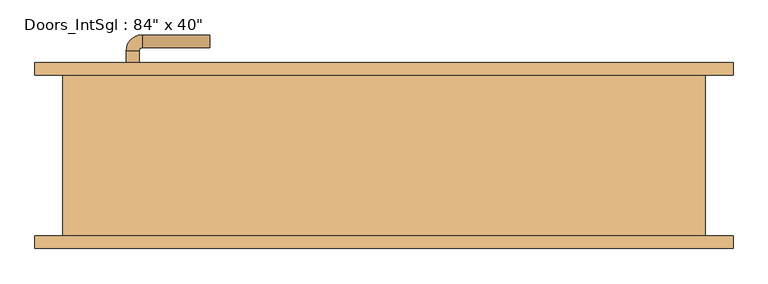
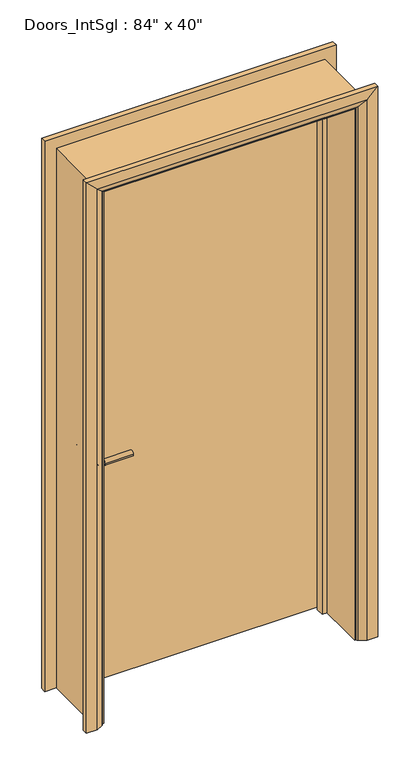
"""IFC4 building model written with IfcOpenShell, lengths in millimetres: door geometry."""

from ifc_helpers import new_model, si_unit, point, frame, frame_2d, origin, place, context, project, spatial, polyline, circle_curve, ellipse_curve, trimmed, segment, composite_curve, outline, extrude, faceted_brep, source, transform, mapped, element, save
from ifc_brep_helpers import plane_surface, cylinder_surface, revolved_surface, advanced_brep


def door_0ca23158(model_context):
    return source(origin(), model_context, "Body", "SolidModel", [
        advanced_brep(
        [(-401.0, 79.0, 900.0), (-381.0, 79.0, 900.0), (-381.0, 49.0, 900.0), (-401.0, 49.0, 900.0), (-376.0, 44.0, 900.0), (-376.0, 24.0, 900.0), (-271.0, 24.0, 900.0), (-271.0, 44.0, 900.0)],
        [
            (0, 1, circle_curve(frame((-391.0, 79.0, 900.0), z_axis=(0.0, 1.0, 0.0), x_axis=(1.0, 0.0, 0.0)), 10.0)),
            (1, 0, circle_curve(frame((-391.0, 79.0, 900.0), z_axis=(0.0, 1.0, 0.0), x_axis=(1.0, 0.0, 0.0)), 10.0)),
            (1, 2),
            (2, 3, circle_curve(frame((-391.0, 49.0, 900.0), z_axis=(0.0, 1.0, 0.0), x_axis=(1.0, 0.0, 0.0)), 10.0)),
            (3, 0),
            (3, 2, circle_curve(frame((-391.0, 49.0, 900.0), z_axis=(0.0, 1.0, 0.0), x_axis=(1.0, 0.0, 0.0)), 10.0)),
            (4, 5, circle_curve(frame((-376.0, 34.0, 900.0), z_axis=(-1.0, 0.0, 0.0), x_axis=(0.0, 1.0, 0.0)), 10.0)),
            (5, 3, circle_curve(frame((-376.0, 49.0, 900.0), z_axis=(0.0, 0.0, -1.0), x_axis=(-1.0, 0.0, 0.0)), 25.0)),
            (2, 4, circle_curve(frame((-376.0, 49.0, 900.0), z_axis=(0.0, 0.0, 1.0), x_axis=(-1.0, 0.0, 0.0)), 5.0)),
            (5, 4, circle_curve(frame((-376.0, 34.0, 900.0), z_axis=(-1.0, 0.0, 0.0), x_axis=(0.0, 1.0, 0.0)), 10.0)),
            (6, 7, circle_curve(frame((-271.0, 34.0, 900.0), z_axis=(1.0, 0.0, 0.0), x_axis=(0.0, 1.0, 0.0)), 10.0)),
            (7, 6, circle_curve(frame((-271.0, 34.0, 900.0), z_axis=(1.0, 0.0, 0.0), x_axis=(0.0, 1.0, 0.0)), 10.0)),
            (4, 7),
            (6, 5),
        ],
        [
            plane_surface(frame((-391.0, 79.0, 900.0), z_axis=(0.0, 1.0, 0.0), x_axis=(0.0, 0.0, 1.0))),
            cylinder_surface(frame((-391.0, 79.0, 900.0), z_axis=(0.0, 1.0, 0.0), x_axis=(1.0, 0.0, 0.0)), 10.0),
            revolved_surface(trimmed(ellipse_curve(frame((-391.0, 49.0, 900.0), z_axis=(0.0, -1.0, 0.0), x_axis=(1.0, 0.0, 0.0)), 10.0, 10.0), [point((-401.0, 49.0, 900.0))], [point((-381.0, 49.0, 900.0))], True, "CARTESIAN"), (-376.0, 49.0, 900.0), (0.0, 0.0, -1.0)),
            revolved_surface(trimmed(ellipse_curve(frame((-391.0, 49.0, 900.0), z_axis=(0.0, -1.0, 0.0), x_axis=(1.0, 0.0, 0.0)), 10.0, 10.0), [point((-381.0, 49.0, 900.0))], [point((-401.0, 49.0, 900.0))], True, "CARTESIAN"), (-376.0, 49.0, 900.0), (0.0, 0.0, -1.0)),
            plane_surface(frame((-271.0, 34.0, 900.0), z_axis=(1.0, 0.0, 0.0), x_axis=(0.0, 0.0, 1.0))),
            cylinder_surface(frame((-376.0, 34.0, 900.0), z_axis=(-1.0, 0.0, 0.0), x_axis=(0.0, 1.0, 0.0)), 10.0),
        ],
        [
            (0, [[1, 2]]),
            (1, [[3, 4, 5, -2]]),
            (1, [[-5, 6, -3, -1]]),
            (2, [[7, 8, -4, 9]]),
            (3, [[10, -9, -6, -8]]),
            (4, [[11, 12]]),
            (5, [[13, -11, 14, -7]]),
            (5, [[-14, -12, -13, -10]]),
        ],
    ),
        extrude(outline(composite_curve([segment(trimmed(circle_curve(frame_2d((900.0, -393.5)), 30.0), [point((900.0, -423.5))], [point((900.0, -363.5))], False, "CARTESIAN"), True, "CONTINUOUS"), segment(trimmed(circle_curve(frame_2d((900.0, -393.5)), 30.0), [point((900.0, -363.5))], [point((900.0, -423.5))], False, "CARTESIAN"), True, "CONTINUOUS")], self_intersect=False)), frame((0.0, 79.0, 0.0), z_axis=(0.0, 1.0, 0.0), x_axis=(0.0, 0.0, 1.0)), (0.0, 0.0, 1.0), 8.0),
        advanced_brep(
        [(-401.0, 133.0, 900.0), (-381.0, 133.0, 900.0), (-401.0, 163.0, 900.0), (-381.0, 163.0, 900.0), (-376.0, 168.0, 900.0), (-376.0, 188.0, 900.0), (-271.0, 188.0, 900.0), (-271.0, 168.0, 900.0)],
        [
            (0, 1, circle_curve(frame((-391.0, 133.0, 900.0), z_axis=(0.0, -1.0, 0.0), x_axis=(1.0, 0.0, 0.0)), 10.0)),
            (1, 0, circle_curve(frame((-391.0, 133.0, 900.0), z_axis=(0.0, -1.0, 0.0), x_axis=(1.0, 0.0, 0.0)), 10.0)),
            (0, 2),
            (2, 3, circle_curve(frame((-391.0, 163.0, 900.0), z_axis=(0.0, -1.0, 0.0), x_axis=(1.0, 0.0, 0.0)), 10.0)),
            (3, 1),
            (3, 2, circle_curve(frame((-391.0, 163.0, 900.0), z_axis=(0.0, -1.0, 0.0), x_axis=(1.0, 0.0, 0.0)), 10.0)),
            (4, 3, circle_curve(frame((-376.0, 163.0, 900.0), z_axis=(0.0, 0.0, 1.0), x_axis=(-1.0, 0.0, 0.0)), 5.0)),
            (2, 5, circle_curve(frame((-376.0, 163.0, 900.0), z_axis=(0.0, 0.0, -1.0), x_axis=(-1.0, 0.0, 0.0)), 25.0)),
            (5, 4, circle_curve(frame((-376.0, 178.0, 900.0), z_axis=(-1.0, 0.0, 0.0), x_axis=(0.0, -1.0, 0.0)), 10.0)),
            (4, 5, circle_curve(frame((-376.0, 178.0, 900.0), z_axis=(-1.0, 0.0, 0.0), x_axis=(0.0, -1.0, 0.0)), 10.0)),
            (6, 7, circle_curve(frame((-271.0, 178.0, 900.0), z_axis=(1.0, 0.0, 0.0), x_axis=(0.0, -1.0, 0.0)), 10.0)),
            (7, 6, circle_curve(frame((-271.0, 178.0, 900.0), z_axis=(1.0, 0.0, 0.0), x_axis=(0.0, -1.0, 0.0)), 10.0)),
            (5, 6),
            (7, 4),
        ],
        [
            plane_surface(frame((-391.0, 133.0, 900.0), z_axis=(0.0, -1.0, 0.0), x_axis=(0.0, 0.0, 1.0))),
            cylinder_surface(frame((-391.0, 133.0, 900.0), z_axis=(0.0, -1.0, 0.0), x_axis=(1.0, 0.0, 0.0)), 10.0),
            revolved_surface(trimmed(ellipse_curve(frame((-391.0, 163.0, 900.0), z_axis=(0.0, -1.0, 0.0), x_axis=(1.0, 0.0, 0.0)), 10.0, 10.0), [point((-401.0, 163.0, 900.0))], [point((-381.0, 163.0, 900.0))], True, "CARTESIAN"), (-376.0, 163.0, 900.0), (0.0, 0.0, -1.0)),
            revolved_surface(trimmed(ellipse_curve(frame((-391.0, 163.0, 900.0), z_axis=(0.0, -1.0, 0.0), x_axis=(1.0, 0.0, 0.0)), 10.0, 10.0), [point((-381.0, 163.0, 900.0))], [point((-401.0, 163.0, 900.0))], True, "CARTESIAN"), (-376.0, 163.0, 900.0), (0.0, 0.0, -1.0)),
            plane_surface(frame((-271.0, 178.0, 900.0), z_axis=(1.0, 0.0, 0.0), x_axis=(0.0, 0.0, 1.0))),
            cylinder_surface(frame((-376.0, 178.0, 900.0), z_axis=(-1.0, 0.0, 0.0), x_axis=(0.0, -1.0, 0.0)), 10.0),
        ],
        [
            (0, [[1, 2]]),
            (1, [[-1, 3, 4, 5]]),
            (1, [[-2, -5, 6, -3]]),
            (2, [[7, -4, 8, 9]]),
            (3, [[-8, -6, -7, 10]]),
            (4, [[11, 12]]),
            (5, [[-9, 13, -12, 14]]),
            (5, [[-10, -14, -11, -13]]),
        ],
    ),
        extrude(outline(composite_curve([segment(trimmed(circle_curve(frame_2d((900.0, -393.5)), 30.0), [point((900.0, -423.5))], [point((900.0, -363.5))], False, "CARTESIAN"), True, "CONTINUOUS"), segment(trimmed(circle_curve(frame_2d((900.0, -393.5)), 30.0), [point((900.0, -363.5))], [point((900.0, -423.5))], False, "CARTESIAN"), True, "CONTINUOUS")], self_intersect=False)), frame((0.0, 125.0, 0.0), z_axis=(0.0, 1.0, 0.0), x_axis=(0.0, 0.0, 1.0)), (0.0, 0.0, 1.0), 8.0),
        extrude(outline(polyline([(466.0, 87.0), (-466.0, 87.0), (-466.0, 125.0), (466.0, 125.0), (466.0, 87.0)])), frame((0.0, 0.0, 8.0), z_axis=(0.0, 0.0, 1.0), x_axis=(1.0, 0.0, 0.0)), (0.0, 0.0, 1.0), 2083.6),
        advanced_brep(
        [(543.0, 145.0, 0.0), (543.0, 125.0, 0.0), (473.0, 125.0, 0.0), (477.0, 131.0, 0.0), (503.0, 145.0, 0.0), (543.0, 145.0, 2168.6), (543.0, 125.0, 2168.6), (-543.0, 125.0, 2168.6), (-543.0, 125.0, 0.0), (-473.0, 125.0, 0.0), (-473.0, 125.0, 2098.6), (473.0, 125.0, 2098.6), (477.0, 131.0, 2102.6), (503.0, 145.0, 2128.6), (-503.0, 145.0, 2128.6), (-503.0, 145.0, 0.0), (-543.0, 145.0, 0.0), (-543.0, 145.0, 2168.6), (-477.0, 131.0, 0.0), (-477.0, 131.0, 2102.6)],
        [
            (0, 1),
            (1, 2),
            (2, 3, circle_curve(frame((481.0, 124.0, 0.0), z_axis=(0.0, 0.0, -1.0), x_axis=(1.0, 0.0, 0.0)), 8.0622577)),
            (3, 4),
            (4, 0),
            (0, 5),
            (5, 6),
            (6, 1),
            (6, 7),
            (7, 8),
            (8, 9),
            (9, 10),
            (10, 11),
            (11, 2),
            (11, 12, ellipse_curve(frame((481.0, 124.0, 2106.6), z_axis=(0.7071067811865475, 0.0, -0.7071067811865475), x_axis=(-0.7071067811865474, 0.0, -0.7071067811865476)), 11.4017543, 8.0622577)),
            (12, 3),
            (12, 13),
            (13, 4),
            (13, 14),
            (14, 15),
            (15, 16),
            (16, 17),
            (17, 5),
            (7, 17),
            (16, 8),
            (15, 18),
            (18, 9, circle_curve(frame((-481.0, 124.0, 0.0), z_axis=(0.0, 0.0, -1.0), x_axis=(-1.0, 0.0, 0.0)), 8.0622577)),
            (19, 10, ellipse_curve(frame((-481.0, 124.0, 2106.6), z_axis=(-0.7071067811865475, 0.0, -0.7071067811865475), x_axis=(-0.7071067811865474, 0.0, 0.7071067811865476)), 11.4017543, 8.0622577)),
            (18, 19),
            (14, 19),
            (19, 12),
        ],
        [
            plane_surface(frame((473.0, 125.0, 0.0), z_axis=(0.0, 0.0, -1.0), x_axis=(0.0, -1.0, 0.0))),
            plane_surface(frame((543.0, 145.0, 0.0), z_axis=(1.0, 0.0, 0.0), x_axis=(0.0, 0.0, 1.0))),
            plane_surface(frame((543.0, 125.0, 0.0), z_axis=(0.0, -1.0, 0.0), x_axis=(0.0, 0.0, 1.0))),
            cylinder_surface(frame((481.0, 124.0, 0.0), z_axis=(0.0, 0.0, -1.0), x_axis=(1.0, 0.0, 0.0)), 8.0622577),
            plane_surface(frame((477.0, 131.0, 0.0), z_axis=(-0.4740998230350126, 0.880471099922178, 0.0), x_axis=(0.0, 0.0, 1.0))),
            plane_surface(frame((503.0, 145.0, 0.0), z_axis=(0.0, 1.0, 0.0), x_axis=(0.0, 0.0, 1.0))),
            plane_surface(frame((-543.0, 145.0, 2168.6), z_axis=(-1.0, 0.0, 0.0), x_axis=(0.0, 0.0, -1.0))),
            plane_surface(frame((-473.0, 125.0, 0.0), z_axis=(0.0, 0.0, -1.0), x_axis=(0.0, -1.0, 0.0))),
            cylinder_surface(frame((-481.0, 124.0, 2098.6), z_axis=(0.0, 0.0, 1.0), x_axis=(-1.0, 0.0, 0.0)), 8.0622577),
            plane_surface(frame((-477.0, 131.0, 2102.6), z_axis=(0.47409982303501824, 0.8804710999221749, 0.0), x_axis=(0.0, 0.0, -1.0))),
            plane_surface(frame((543.0, 145.0, 2168.6), z_axis=(0.0, 0.0, 1.0), x_axis=(-1.0, 0.0, 0.0))),
            cylinder_surface(frame((473.0, 124.0, 2106.6), z_axis=(1.0, 0.0, 0.0), x_axis=(0.0, 0.0, 1.0)), 8.0622577),
            plane_surface(frame((477.0, 131.0, 2102.6), z_axis=(0.0, 0.8804710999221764, -0.4740998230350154), x_axis=(-1.0, 0.0, 0.0))),
        ],
        [
            (0, [[1, 2, 3, 4, 5]]),
            (1, [[-1, 6, 7, 8]]),
            (2, [[-2, -8, 9, 10, 11, 12, 13, 14]]),
            (3, [[-3, -14, 15, 16]]),
            (4, [[-4, -16, 17, 18]]),
            (5, [[-5, -18, 19, 20, 21, 22, 23, -6]]),
            (6, [[24, -22, 25, -10]]),
            (7, [[-21, 26, 27, -11, -25]]),
            (8, [[28, -12, -27, 29]]),
            (9, [[30, -29, -26, -20]]),
            (10, [[-7, -23, -24, -9]]),
            (11, [[-15, -13, -28, 31]]),
            (12, [[-17, -31, -30, -19]]),
        ],
    ),
        extrude(outline(polyline([(0.0, -468.0), (0.0, -449.0), (2074.6, -449.0), (2074.6, 449.0), (0.0, 449.0), (0.0, 468.0), (2093.6, 468.0), (2093.6, -468.0), (0.0, -468.0)])), frame((0.0, 53.0, 0.0), z_axis=(0.0, 1.0, 0.0), x_axis=(0.0, 0.0, 1.0)), (0.0, 0.0, 1.0), 32.0),
        advanced_brep(
        [(-543.0, -145.0, 0.0), (-543.0, -125.0, 0.0), (-473.0, -125.0, 0.0), (-477.0, -131.0, 0.0), (-503.0, -145.0, 0.0), (-543.0, -145.0, 2168.6), (-543.0, -125.0, 2168.6), (-473.0, -125.0, 2098.6), (-477.0, -131.0, 2102.6), (-503.0, -145.0, 2128.6), (543.0, -145.0, 0.0), (503.0, -145.0, 0.0), (477.0, -131.0, 0.0), (473.0, -125.0, 0.0), (543.0, -125.0, 0.0), (543.0, -145.0, 2168.6), (503.0, -145.0, 2128.6), (477.0, -131.0, 2102.6), (473.0, -125.0, 2098.6), (543.0, -125.0, 2168.6)],
        [
            (0, 1),
            (1, 2),
            (2, 3, circle_curve(frame((-481.0, -124.0, 0.0), z_axis=(0.0, 0.0, -1.0), x_axis=(-1.0, 0.0, 0.0)), 8.0622577)),
            (3, 4),
            (4, 0),
            (0, 5),
            (5, 6),
            (6, 1),
            (6, 7),
            (7, 2),
            (7, 8, ellipse_curve(frame((-481.0, -124.0, 2106.6), z_axis=(-0.7071067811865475, 0.0, -0.7071067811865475), x_axis=(0.7071067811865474, 0.0, -0.7071067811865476)), 11.4017543, 8.0622577)),
            (8, 3),
            (8, 9),
            (9, 4),
            (9, 5),
            (10, 11),
            (11, 12),
            (12, 13, circle_curve(frame((481.0, -124.0, 0.0), z_axis=(0.0, 0.0, -1.0), x_axis=(1.0, 0.0, 0.0)), 8.0622577)),
            (13, 14),
            (14, 10),
            (15, 16),
            (16, 11),
            (10, 15),
            (16, 17),
            (17, 12),
            (17, 18, ellipse_curve(frame((481.0, -124.0, 2106.6), z_axis=(0.7071067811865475, 0.0, -0.7071067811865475), x_axis=(0.7071067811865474, 0.0, 0.7071067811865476)), 11.4017543, 8.0622577)),
            (18, 13),
            (18, 19),
            (19, 14),
            (19, 15),
            (5, 15),
            (19, 6),
            (18, 7),
            (17, 8),
            (16, 9),
        ],
        [
            plane_surface(frame((-473.0, -197.8010989, 0.0), z_axis=(0.0, 0.0, -1.0), x_axis=(1.0, 0.0, 0.0))),
            plane_surface(frame((-543.0, -145.0, 0.0), z_axis=(-1.0, 0.0, 0.0), x_axis=(0.0, 0.0, 1.0))),
            plane_surface(frame((-543.0, -125.0, 0.0), z_axis=(0.0, 1.0, 0.0), x_axis=(0.0, 0.0, 1.0))),
            cylinder_surface(frame((-481.0, -124.0, 0.0), z_axis=(0.0, 0.0, -1.0), x_axis=(-1.0, 0.0, 0.0)), 8.0622577),
            plane_surface(frame((-477.0, -131.0, 0.0), z_axis=(0.4740998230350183, -0.8804710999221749, 0.0), x_axis=(0.0, 0.0, 1.0))),
            plane_surface(frame((-503.0, -145.0, 0.0), z_axis=(0.0, -1.0, 0.0), x_axis=(0.0, 0.0, 1.0))),
            plane_surface(frame((473.0, -197.8010989, 0.0), z_axis=(0.0, 0.0, -1.0), x_axis=(-1.0, 0.0, 0.0))),
            plane_surface(frame((503.0, -145.0, 2128.6), z_axis=(0.0, -1.0, 0.0), x_axis=(0.0, 0.0, -1.0))),
            plane_surface(frame((477.0, -131.0, 2102.6), z_axis=(-0.4740998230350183, -0.8804710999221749, 0.0), x_axis=(0.0, 0.0, -1.0))),
            cylinder_surface(frame((481.0, -124.0, 2098.6), z_axis=(0.0, 0.0, 1.0), x_axis=(1.0, 0.0, 0.0)), 8.0622577),
            plane_surface(frame((543.0, -125.0, 2168.6), z_axis=(0.0, 1.0, 0.0), x_axis=(0.0, 0.0, -1.0))),
            plane_surface(frame((543.0, -145.0, 2168.6), z_axis=(1.0, 0.0, 0.0), x_axis=(0.0, 0.0, -1.0))),
            plane_surface(frame((-543.0, -145.0, 2168.6), z_axis=(0.0, 0.0, 1.0), x_axis=(1.0, 0.0, 0.0))),
            plane_surface(frame((-543.0, -125.0, 2168.6), z_axis=(0.0, 1.0, 0.0), x_axis=(1.0, 0.0, 0.0))),
            cylinder_surface(frame((-473.0, -124.0, 2106.6), z_axis=(-1.0, 0.0, 0.0), x_axis=(0.0, 0.0, 1.0)), 8.0622577),
            plane_surface(frame((-477.0, -131.0, 2102.6), z_axis=(0.0, -0.8804710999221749, -0.4740998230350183), x_axis=(1.0, 0.0, 0.0))),
            plane_surface(frame((-503.0, -145.0, 2128.6), z_axis=(0.0, -1.0, 0.0), x_axis=(1.0, 0.0, 0.0))),
        ],
        [
            (0, [[1, 2, 3, 4, 5]]),
            (1, [[-1, 6, 7, 8]]),
            (2, [[-2, -8, 9, 10]]),
            (3, [[-3, -10, 11, 12]]),
            (4, [[-4, -12, 13, 14]]),
            (5, [[-5, -14, 15, -6]]),
            (6, [[16, 17, 18, 19, 20]]),
            (7, [[21, 22, -16, 23]]),
            (8, [[24, 25, -17, -22]]),
            (9, [[26, 27, -18, -25]]),
            (10, [[28, 29, -19, -27]]),
            (11, [[30, -23, -20, -29]]),
            (12, [[-7, 31, -30, 32]]),
            (13, [[-9, -32, -28, 33]]),
            (14, [[-11, -33, -26, 34]]),
            (15, [[-13, -34, -24, 35]]),
            (16, [[-15, -35, -21, -31]]),
        ],
    ),
        faceted_brep([(-468.0, 125.0, 0.0), (-468.0, -125.0, 0.0), (-500.0, -125.0, 0.0), (-500.0, 125.0, 0.0), (-468.0, 125.0, 2093.6), (-468.0, -125.0, 2093.6), (-500.0, -125.0, 2125.6), (-500.0, 125.0, 2125.6), (468.0, 125.0, 0.0), (500.0, 125.0, 0.0), (500.0, -125.0, 0.0), (468.0, -125.0, 0.0), (468.0, 125.0, 2093.6), (500.0, 125.0, 2125.6), (500.0, -125.0, 2125.6), (468.0, -125.0, 2093.6)], [[[0, 1, 2, 3]], [[1, 0, 4, 5]], [[2, 1, 5, 6]], [[3, 2, 6, 7]], [[0, 3, 7, 4]], [[8, 9, 10, 11]], [[12, 13, 9, 8]], [[13, 14, 10, 9]], [[14, 15, 11, 10]], [[15, 12, 8, 11]], [[5, 4, 12, 15]], [[6, 5, 15, 14]], [[7, 6, 14, 13]], [[4, 7, 13, 12]]]),
    ])


if __name__ == "__main__":
    model = new_model("IFC4")
    model_context = context("Model", 3, world=origin())
    ifc_project = project(units=[si_unit("LENGTHUNIT", "METRE", prefix="MILLI")], contexts=[model_context])
    site = spatial("IfcSite", under=ifc_project)
    building = spatial("IfcBuilding", under=site)
    placement = place(None, origin())
    door_shape = door_0ca23158(model_context)
    element("IfcDoor", 1, ObjectType="Doors_IntSgl : 84\" x 40\"", at=placement, inside=building, context=model_context, shape_type="MappedRepresentation", body=[
        mapped(door_shape, transform((0.0, 0.0, 0.0), x_axis=(1.0, 0.0, 0.0), y_axis=(0.0, 1.0, 0.0), z_axis=(0.0, 0.0, 1.0))),
    ])
    save(model, "model.ifc")
